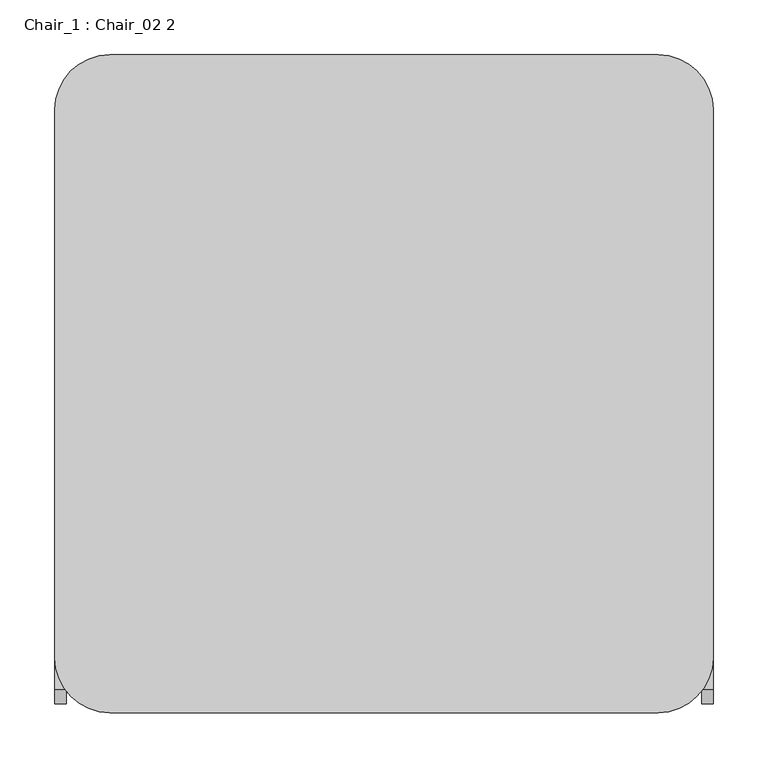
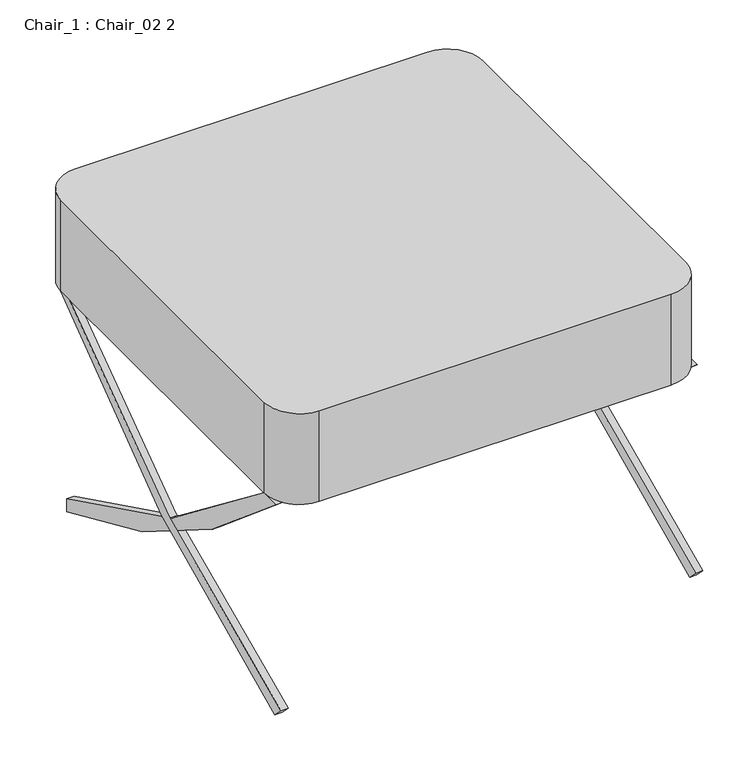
"""IFC4 building model written with IfcOpenShell, lengths in millimetres: furniture geometry, Chair_1 : Chair_02 2."""

from ifc_helpers import new_model, si_unit, point, frame, frame_2d, origin, place, context, project, spatial, polyline, circle_curve, trimmed, segment, composite_curve, outline, extrude, source, transform, mapped, element, save


def chair_1_chair_02_2_ef072ba1(model_context):
    return source(origin(), model_context, "Body", "SweptSolid", [
        extrude(outline(composite_curve([segment(polyline([(-277.1578899, 5.5087434), (-292.0807599, 20.4316134)]), True, "CONTINUOUS"), segment(trimmed(circle_curve(frame_2d((-764.6364536, 1433.8525532)), 1490.3246749), [point((-292.0807599, 20.4316134))], [point((228.0484497, 322.2571595))], True, "CARTESIAN"), True, "CONTINUOUS"), segment(polyline([(228.0484497, 322.2571595), (250.0, 322.2571595)]), True, "CONTINUOUS"), segment(trimmed(circle_curve(frame_2d((-764.6364536, 1413.8525532)), 1490.3246749), [point((250.0, 322.2571595))], [point((-277.1578899, 5.5087434))], False, "CARTESIAN"), True, "CONTINUOUS")], self_intersect=False)), frame((-300.0, 0.0, 0.0), z_axis=(1.0, 0.0, 0.0), x_axis=(0.0, 1.0, 0.0)), (0.0, 0.0, 1.0), 10.2293924),
        extrude(outline(composite_curve([segment(polyline([(235.0923356, 19.3371855), (235.0923356, 0.0)]), True, "CONTINUOUS"), segment(trimmed(circle_curve(frame_2d((722.1051335, 1347.6088702)), 1432.9100225), [point((235.0923356, 0.0))], [point((-278.8369236, 322.2571595))], False, "CARTESIAN"), True, "CONTINUOUS"), segment(polyline([(-278.8369236, 322.2571595), (-250.0, 322.2571595)]), True, "CONTINUOUS"), segment(trimmed(circle_curve(frame_2d((736.2472691, 1361.7510059)), 1432.9100225), [point((-250.0, 322.2571595))], [point((235.0923356, 19.3371855))], True, "CARTESIAN"), True, "CONTINUOUS")], self_intersect=False)), frame((-300.0, 0.0, 0.0), z_axis=(1.0, 0.0, 0.0), x_axis=(0.0, 1.0, 0.0)), (0.0, 0.0, 1.0), 10.2293924),
        extrude(outline(composite_curve([segment(polyline([(-277.1578899, 5.5087434), (-292.0807599, 20.4316134)]), True, "CONTINUOUS"), segment(trimmed(circle_curve(frame_2d((-764.6364536, 1433.8525532)), 1490.3246749), [point((-292.0807599, 20.4316134))], [point((228.0484497, 322.2571595))], True, "CARTESIAN"), True, "CONTINUOUS"), segment(polyline([(228.0484497, 322.2571595), (250.0, 322.2571595)]), True, "CONTINUOUS"), segment(trimmed(circle_curve(frame_2d((-764.6364536, 1413.8525532)), 1490.3246749), [point((250.0, 322.2571595))], [point((-277.1578899, 5.5087434))], False, "CARTESIAN"), True, "CONTINUOUS")], self_intersect=False)), frame((289.7706076, 0.0, 0.0), z_axis=(1.0, 0.0, 0.0), x_axis=(0.0, 1.0, 0.0)), (0.0, 0.0, 1.0), 10.2293924),
        extrude(outline(composite_curve([segment(polyline([(235.0923356, 19.3371855), (235.0923356, 0.0)]), True, "CONTINUOUS"), segment(trimmed(circle_curve(frame_2d((722.1051335, 1347.6088702)), 1432.9100225), [point((235.0923356, 0.0))], [point((-278.8369236, 322.2571595))], False, "CARTESIAN"), True, "CONTINUOUS"), segment(polyline([(-278.8369236, 322.2571595), (-250.0, 322.2571595)]), True, "CONTINUOUS"), segment(trimmed(circle_curve(frame_2d((736.2472691, 1361.7510059)), 1432.9100225), [point((-250.0, 322.2571595))], [point((235.0923356, 19.3371855))], True, "CARTESIAN"), True, "CONTINUOUS")], self_intersect=False)), frame((289.7706076, 0.0, 0.0), z_axis=(1.0, 0.0, 0.0), x_axis=(0.0, 1.0, 0.0)), (0.0, 0.0, 1.0), 10.2293924),
        extrude(outline(composite_curve([segment(trimmed(circle_curve(frame_2d((250.0, 250.0)), 50.0), [point((250.0, 300.0))], [point((300.0, 250.0))], False, "CARTESIAN"), True, "CONTINUOUS"), segment(polyline([(300.0, 250.0), (300.0, -250.0)]), True, "CONTINUOUS"), segment(trimmed(circle_curve(frame_2d((250.0, -250.0)), 50.0), [point((300.0, -250.0))], [point((250.0, -300.0))], False, "CARTESIAN"), True, "CONTINUOUS"), segment(polyline([(250.0, -300.0), (-250.0, -300.0)]), True, "CONTINUOUS"), segment(trimmed(circle_curve(frame_2d((-250.0, -250.0)), 50.0), [point((-250.0, -300.0))], [point((-300.0, -250.0))], False, "CARTESIAN"), True, "CONTINUOUS"), segment(polyline([(-300.0, -250.0), (-300.0, 250.0)]), True, "CONTINUOUS"), segment(trimmed(circle_curve(frame_2d((-250.0, 250.0)), 50.0), [point((-300.0, 250.0))], [point((-250.0, 300.0))], False, "CARTESIAN"), True, "CONTINUOUS"), segment(polyline([(-250.0, 300.0), (250.0, 300.0)]), True, "CONTINUOUS")], self_intersect=False)), frame((0.0, 0.0, 322.2571595), z_axis=(0.0, 0.0, 1.0), x_axis=(1.0, 0.0, 0.0)), (0.0, 0.0, 1.0), 136.520178),
    ])


if __name__ == "__main__":
    model = new_model("IFC4")
    model_context = context("Model", 3, world=origin())
    ifc_project = project(units=[si_unit("LENGTHUNIT", "METRE", prefix="MILLI")], contexts=[model_context])
    site = spatial("IfcSite", under=ifc_project)
    building = spatial("IfcBuilding", under=site)
    placement = place(None, origin())
    chair_1_chair_02_2_shape = chair_1_chair_02_2_ef072ba1(model_context)
    element("IfcFurniture", 1, ObjectType="Chair_1 : Chair_02 2", at=placement, inside=building, context=model_context, shape_type="MappedRepresentation", body=[
        mapped(chair_1_chair_02_2_shape, transform((0.0, 0.0, 0.0), x_axis=(1.0, 0.0, 0.0), y_axis=(0.0, 1.0, 0.0), z_axis=(0.0, 0.0, 1.0))),
    ])
    save(model, "model.ifc")
